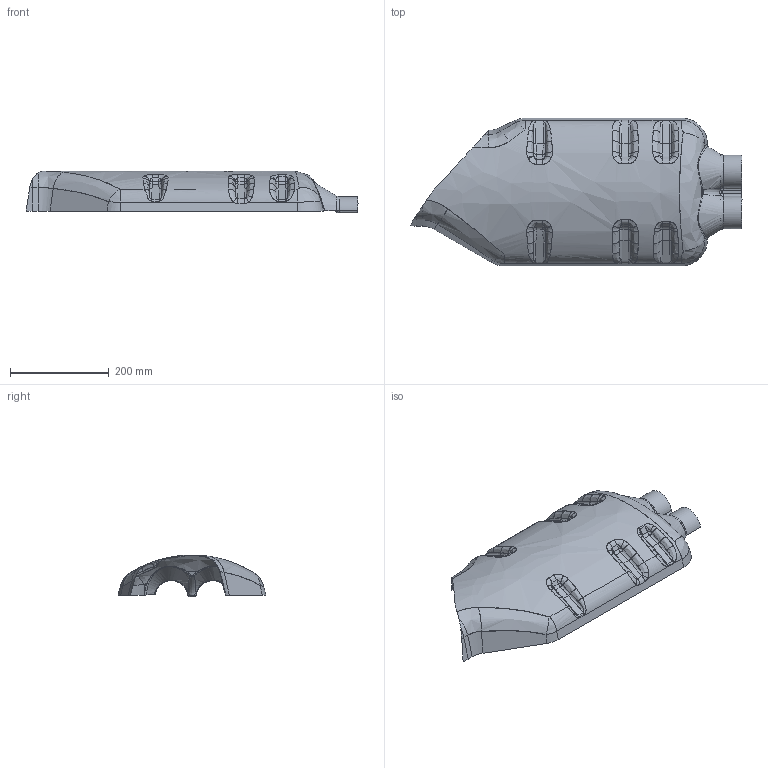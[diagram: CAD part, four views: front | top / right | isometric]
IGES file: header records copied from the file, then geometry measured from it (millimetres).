
Start section: START IGES DATA FILE
Global section: file name: exhaust.igs; native system: DYNAFORM VER.3.1,DYNAFORM IGES TRANSLATOR, ENGINEERING TECHNOLOGY ASSOCIATES, INC.; preprocessor: 980406; date: 040401.154833; units: millimetre
Bounding box: 671.92 x 299.01 x 84.93 mm (x, y, z)
Surface area: 216316.7 mm2 (no closed solid volume)
Topology: 0 solids, 0 shells, 206 faces, 2361 edges, 2361 vertices
Faces by surface type: bspline 206
